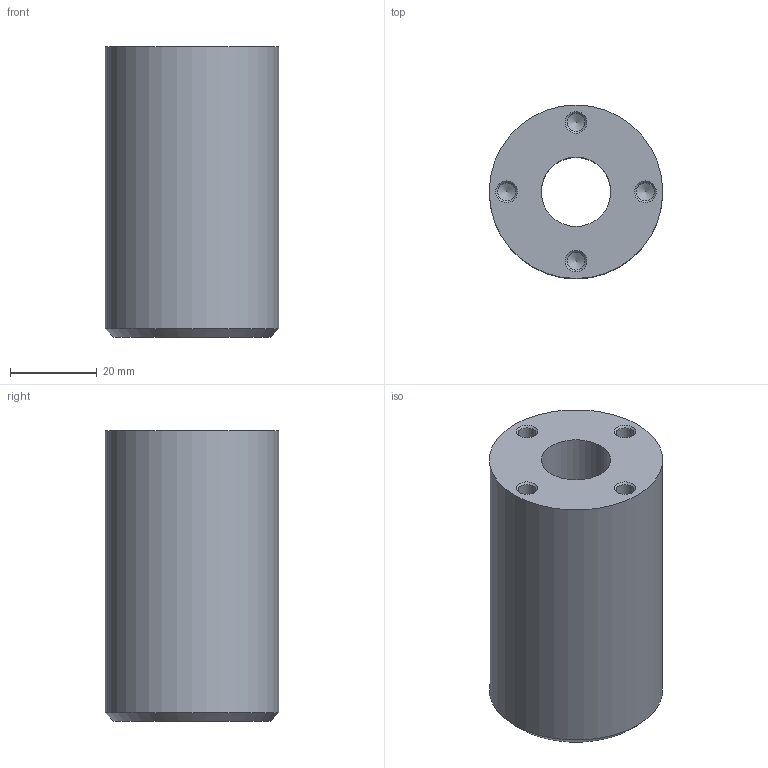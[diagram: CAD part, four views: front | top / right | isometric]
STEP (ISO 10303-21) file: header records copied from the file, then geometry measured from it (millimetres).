
FILE_DESCRIPTION( ( 'STEP AP214' ), '1' );
FILE_NAME( 'U:/Etudes/Top Solid/BIBLIO 3D AVM/STEP/PNEUMATIQUE/GUIDAGES/Accessoires/Paliers/513651_.step', '2005-05-04T12:36:04', ( ' ' ), ( ' ' ), 'XStep 1.0', ' ', ' ' );
FILE_SCHEMA( ( 'automotive_design' ) );
Length unit declared in the file: metre
Products named in the file (1): 1
Bounding box: 40 x 40 x 67 mm (x, y, z)
Volume: 69739.6 mm3; surface area: 14433.4 mm2
Topology: 1 solids, 1 shells, 21 faces, 44 edges, 25 vertices
Faces by surface type: cylinder 10, cone 9, plane 2
Full cylindrical faces by diameter (mm): 4.134 x8, 16 x1, 40 x1
Entity records: 628 total; most frequent: DIRECTION 86, CARTESIAN_POINT 68, AXIS2_PLACEMENT_3D 43, EDGE_LOOP 42, ORIENTED_EDGE 42, FACE_OUTER_BOUND 31, VERTEX_POINT 25, STYLED_ITEM 21
